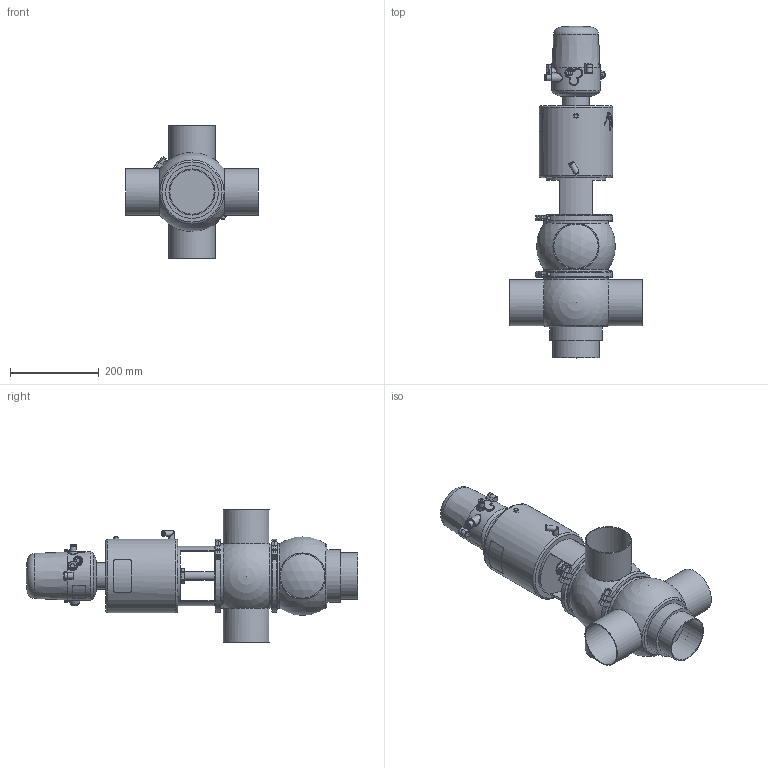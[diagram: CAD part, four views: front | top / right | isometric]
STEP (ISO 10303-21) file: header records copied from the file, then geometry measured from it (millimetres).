
FILE_DESCRIPTION (( 'STEP AP214' ), '1' );
FILE_NAME ('INNOVA K G W DIN 100 T4 AS NC & C-TOP S_10.240.16.0082.STEP', '2024-08-06T09:04:54', ( '' ), ( '' ), 'SwSTEP 2.0', 'SolidWorks 2023', '' );
FILE_SCHEMA (( 'AUTOMOTIVE_DESIGN' ));
Length unit declared in the file: millimetre
Products named in the file (8): 10.240.15.0014_T4 AS P0; 10.240.15.0010_DN 100; 10.240.15.0007_DIN 100; 10.240.15.0017_Estàndard; 10.240.15.0001_DN 100; 10.240.15.0003_DIN 100; INNOVA K G W DIN 100 T4 AS NC & C-TOP S_10.240.16.0082; 10.426.15.0001_C-TOP S - 1 EV
Assembly tree (8 placements, depth 2):
  INNOVA K G W DIN 100 T4 AS NC & C-TOP S_10.240.16.0082
    10.240.15.0007_DIN 100
    10.240.15.0003_DIN 100
    10.240.15.0010_DN 100
    10.240.15.0014_T4 AS P0
    10.240.15.0017_Estàndard
    10.426.15.0001_C-TOP S - 1 EV
    10.240.15.0001_DN 100  x2
Bounding box: 300 x 749 x 300 mm (x, y, z)
Volume: 10976573.9 mm3; surface area: 825676 mm2
Topology: 8 solids, 8 shells, 1182 faces, 2871 edges, 1911 vertices
Faces by surface type: plane 412, cylinder 360, cone 201, bspline 160, torus 37, sphere 12
Full cylindrical faces by diameter (mm): 0.371 x17, 0.512 x16, 0.658 x16, 0.795 x16, 0.94 x15, 1.098 x15, 1.241 x13, 1.382 x13, 1.523 x11, 1.669 x10, 2.201 x1, 4 x2, 5.5 x2, 6 x2, 6.15 x1, 8 x6, 8.5 x1, 10 x1, 10.5 x1, 11 x2, 12.5 x3, 13 x2, 13.5 x2, 16 x1, 17 x3, 20 x3, 20.5 x1, 22 x2, 31 x1, 34.5 x3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
Entity records: 58348 total; most frequent: CARTESIAN_POINT 27919, ORIENTED_EDGE 4556, DIRECTION 3699, EDGE_CURVE 2278, VERTEX_POINT 1621, EDGE_LOOP 1583, AXIS2_PLACEMENT_3D 1521, FACE_OUTER_BOUND 1343
